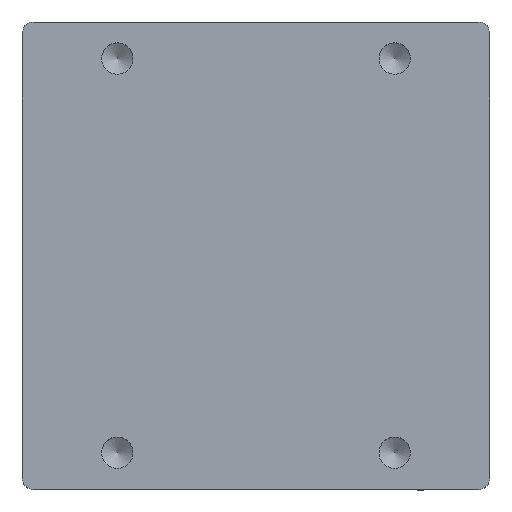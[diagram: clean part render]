
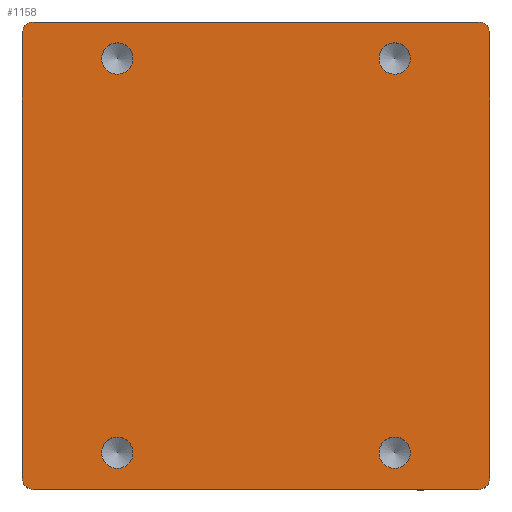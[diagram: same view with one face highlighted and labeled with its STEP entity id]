
A CAD part, top view. The second image highlights one B-rep face of the part: STEP entity #1158.
In plain terms, the highlighted planar face has unit normal (0, 0, 1).
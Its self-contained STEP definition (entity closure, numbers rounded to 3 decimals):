
#369=PLANE('',#4577);
#480=LINE('',#6788,#705);
#489=LINE('',#6811,#714);
#497=LINE('',#6861,#722);
#505=LINE('',#6881,#730);
#705=VECTOR('',#5058,1.);
#714=VECTOR('',#5075,1.);
#722=VECTOR('',#5095,1.);
#730=VECTOR('',#5111,1.);
#1158=ADVANCED_FACE('',(#1542,#1543,#1544,#1545,#1546),#369,.F.);
#1542=FACE_BOUND('',#1639,.T.);
#1543=FACE_BOUND('',#1640,.T.);
#1544=FACE_BOUND('',#1641,.T.);
#1545=FACE_BOUND('',#1642,.T.);
#1546=FACE_BOUND('',#1643,.T.);
#1639=EDGE_LOOP('',(#2043,#2044,#2045,#2046,#2047,#2048,#2049,#2050));
#1640=EDGE_LOOP('',(#2051));
#1641=EDGE_LOOP('',(#2052));
#1642=EDGE_LOOP('',(#2053));
#1643=EDGE_LOOP('',(#2054));
#2043=ORIENTED_EDGE('',*,*,#3704,.T.);
#2044=ORIENTED_EDGE('',*,*,#3748,.T.);
#2045=ORIENTED_EDGE('',*,*,#3741,.T.);
#2046=ORIENTED_EDGE('',*,*,#3738,.T.);
#2047=ORIENTED_EDGE('',*,*,#3731,.T.);
#2048=ORIENTED_EDGE('',*,*,#3722,.T.);
#2049=ORIENTED_EDGE('',*,*,#3715,.T.);
#2050=ORIENTED_EDGE('',*,*,#3712,.T.);
#2051=ORIENTED_EDGE('',*,*,#3662,.T.);
#2052=ORIENTED_EDGE('',*,*,#3660,.T.);
#2053=ORIENTED_EDGE('',*,*,#3658,.T.);
#2054=ORIENTED_EDGE('',*,*,#3656,.T.);
#3233=VERTEX_POINT('',#6111);
#3236=VERTEX_POINT('',#6118);
#3239=VERTEX_POINT('',#6125);
#3242=VERTEX_POINT('',#6132);
#3283=VERTEX_POINT('',#6789);
#3284=VERTEX_POINT('',#6790);
#3291=VERTEX_POINT('',#6806);
#3293=VERTEX_POINT('',#6812);
#3299=VERTEX_POINT('',#6826);
#3305=VERTEX_POINT('',#6862);
#3311=VERTEX_POINT('',#6876);
#3313=VERTEX_POINT('',#6882);
#3656=EDGE_CURVE('',#3233,#3233,#4309,.T.);
#3658=EDGE_CURVE('',#3236,#3236,#4311,.T.);
#3660=EDGE_CURVE('',#3239,#3239,#4313,.T.);
#3662=EDGE_CURVE('',#3242,#3242,#4315,.T.);
#3704=EDGE_CURVE('',#3283,#3284,#480,.T.);
#3712=EDGE_CURVE('',#3291,#3283,#4329,.T.);
#3715=EDGE_CURVE('',#3293,#3291,#489,.T.);
#3722=EDGE_CURVE('',#3299,#3293,#4331,.T.);
#3731=EDGE_CURVE('',#3305,#3299,#497,.T.);
#3738=EDGE_CURVE('',#3311,#3305,#4335,.T.);
#3741=EDGE_CURVE('',#3313,#3311,#505,.T.);
#3748=EDGE_CURVE('',#3284,#3313,#4337,.T.);
#4309=CIRCLE('',#4523,2.15);
#4311=CIRCLE('',#4527,2.15);
#4313=CIRCLE('',#4531,2.15);
#4315=CIRCLE('',#4535,2.15);
#4329=CIRCLE('',#4560,1.5);
#4331=CIRCLE('',#4564,1.5);
#4335=CIRCLE('',#4570,1.5);
#4337=CIRCLE('',#4574,1.5);
#4523=AXIS2_PLACEMENT_3D('',#6110,#4978,#4979);
#4527=AXIS2_PLACEMENT_3D('',#6117,#4986,#4987);
#4531=AXIS2_PLACEMENT_3D('',#6124,#4994,#4995);
#4535=AXIS2_PLACEMENT_3D('',#6131,#5002,#5003);
#4560=AXIS2_PLACEMENT_3D('',#6805,#5068,#5069);
#4564=AXIS2_PLACEMENT_3D('',#6825,#5084,#5085);
#4570=AXIS2_PLACEMENT_3D('',#6875,#5104,#5105);
#4574=AXIS2_PLACEMENT_3D('',#6895,#5120,#5121);
#4577=AXIS2_PLACEMENT_3D('',#6898,#5126,#5127);
#4978=DIRECTION('',(0.,0.,-1.));
#4979=DIRECTION('',(-1.,0.,0.));
#4986=DIRECTION('',(0.,0.,-1.));
#4987=DIRECTION('',(-1.,0.,0.));
#4994=DIRECTION('',(0.,0.,-1.));
#4995=DIRECTION('',(-1.,0.,0.));
#5002=DIRECTION('',(0.,0.,-1.));
#5003=DIRECTION('',(-1.,0.,0.));
#5058=DIRECTION('',(0.,1.,0.));
#5068=DIRECTION('',(0.,0.,1.));
#5069=DIRECTION('',(1.,0.,0.));
#5075=DIRECTION('',(1.,0.,0.));
#5084=DIRECTION('',(0.,0.,1.));
#5085=DIRECTION('',(1.,0.,0.));
#5095=DIRECTION('',(0.,-1.,0.));
#5104=DIRECTION('',(0.,0.,1.));
#5105=DIRECTION('',(1.,0.,0.));
#5111=DIRECTION('',(-1.,0.,0.));
#5120=DIRECTION('',(0.,0.,1.));
#5121=DIRECTION('',(1.,0.,0.));
#5126=DIRECTION('',(0.,0.,-1.));
#5127=DIRECTION('',(-1.,0.,0.));
#6110=CARTESIAN_POINT('',(19.,-27.,32.2));
#6111=CARTESIAN_POINT('',(16.85,-27.,32.2));
#6117=CARTESIAN_POINT('',(19.,27.,32.2));
#6118=CARTESIAN_POINT('',(16.85,27.,32.2));
#6124=CARTESIAN_POINT('',(-19.,27.,32.2));
#6125=CARTESIAN_POINT('',(-21.15,27.,32.2));
#6131=CARTESIAN_POINT('',(-19.,-27.,32.2));
#6132=CARTESIAN_POINT('',(-21.15,-27.,32.2));
#6788=CARTESIAN_POINT('',(32.,-30.5,32.2));
#6789=CARTESIAN_POINT('',(32.,-30.5,32.2));
#6790=CARTESIAN_POINT('',(32.,30.5,32.2));
#6805=CARTESIAN_POINT('',(30.5,-30.5,32.2));
#6806=CARTESIAN_POINT('',(30.5,-32.,32.2));
#6811=CARTESIAN_POINT('',(-30.5,-32.,32.2));
#6812=CARTESIAN_POINT('',(-30.5,-32.,32.2));
#6825=CARTESIAN_POINT('',(-30.5,-30.5,32.2));
#6826=CARTESIAN_POINT('',(-32.,-30.5,32.2));
#6861=CARTESIAN_POINT('',(-32.,30.5,32.2));
#6862=CARTESIAN_POINT('',(-32.,30.5,32.2));
#6875=CARTESIAN_POINT('',(-30.5,30.5,32.2));
#6876=CARTESIAN_POINT('',(-30.5,32.,32.2));
#6881=CARTESIAN_POINT('',(30.5,32.,32.2));
#6882=CARTESIAN_POINT('',(30.5,32.,32.2));
#6895=CARTESIAN_POINT('',(30.5,30.5,32.2));
#6898=CARTESIAN_POINT('',(0.,0.,32.2));
